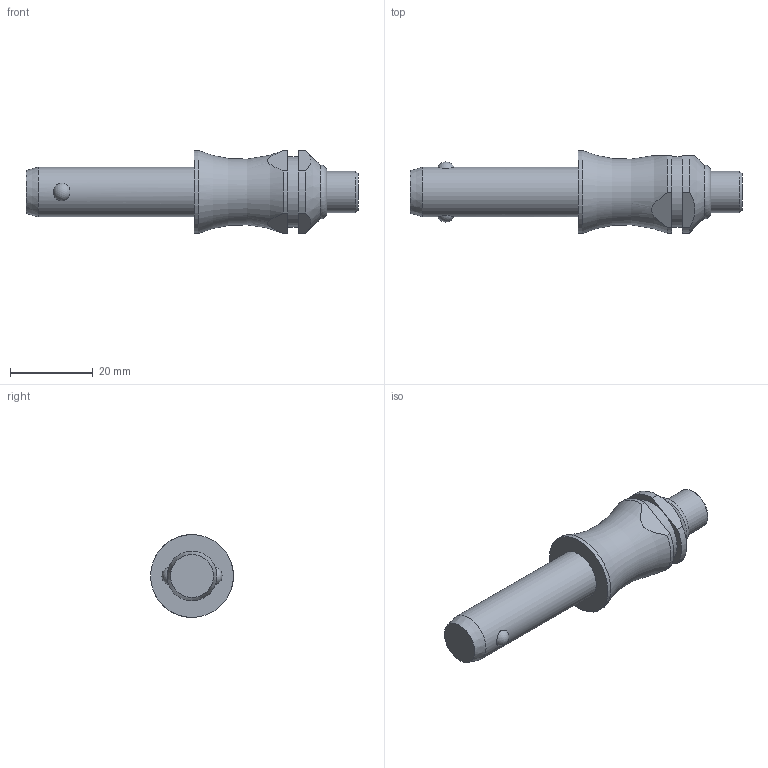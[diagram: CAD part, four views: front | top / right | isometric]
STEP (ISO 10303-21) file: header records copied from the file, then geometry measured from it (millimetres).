
FILE_DESCRIPTION( ( 'STEP AP203' ), '1' );
FILE_NAME( 'C:/Temp/Ganter_Step_05_03_2020/data/3_1/gn113_3/Stainless Steel-Ball lock pin GN 113.3-12-30 (deactivated).stp', '2020-03-12T08:18:41', ( 'License CC BY-ND 4.0' ), ( 'CADENAS' ), ' ', 'PARTsolutions', ' ' );
FILE_SCHEMA( ( 'CONFIG_CONTROL_DESIGN' ) );
Length unit declared in the file: millimetre
Products named in the file (1): _Stainless Steel-Ball lock pin GN 113.3-12-30 (deactivated)
Bounding box: 80.1 x 20 x 20 mm (x, y, z)
Volume: 12530.5 mm3; surface area: 4092.9 mm2
Topology: 1 solids, 1 shells, 28 faces, 60 edges, 39 vertices
Faces by surface type: plane 11, cylinder 10, cone 3, torus 2, sphere 2
Full cylindrical faces by diameter (mm): 10 x1, 12 x1, 17 x1, 20 x1
Entity records: 954 total; most frequent: CARTESIAN_POINT 338, DIRECTION 122, ORIENTED_EDGE 98, AXIS2_PLACEMENT_3D 52, EDGE_CURVE 49, EDGE_LOOP 42, VERTEX_POINT 38, FACE_OUTER_BOUND 34
